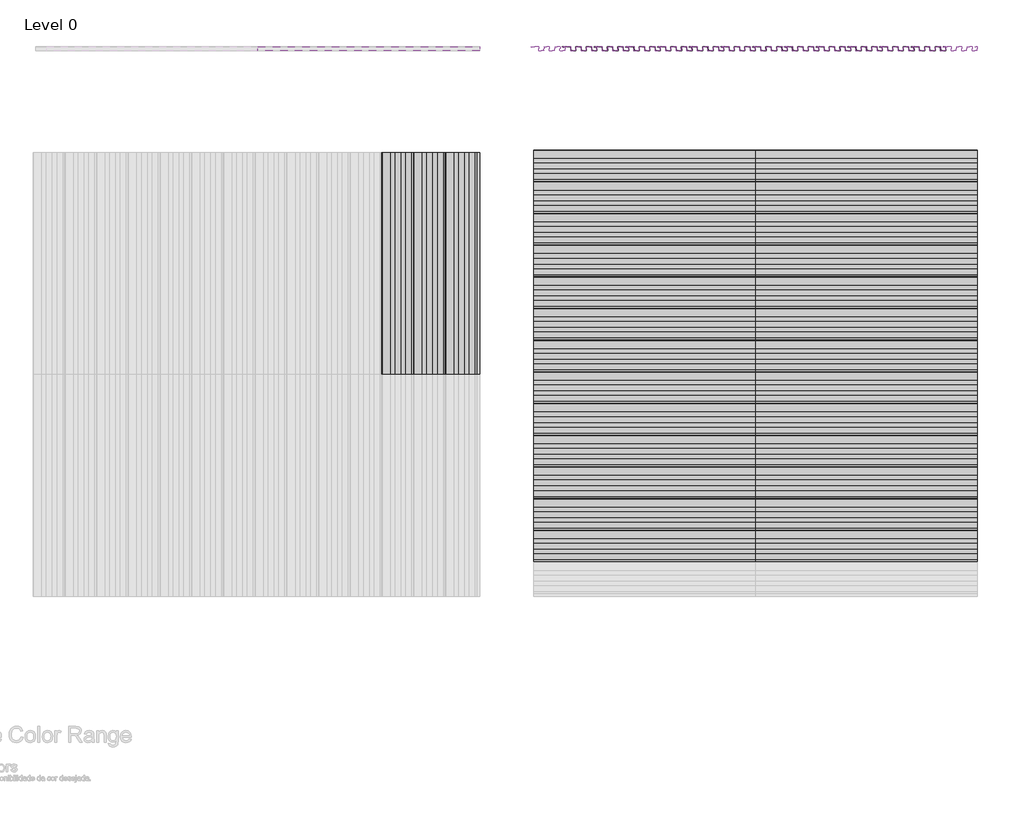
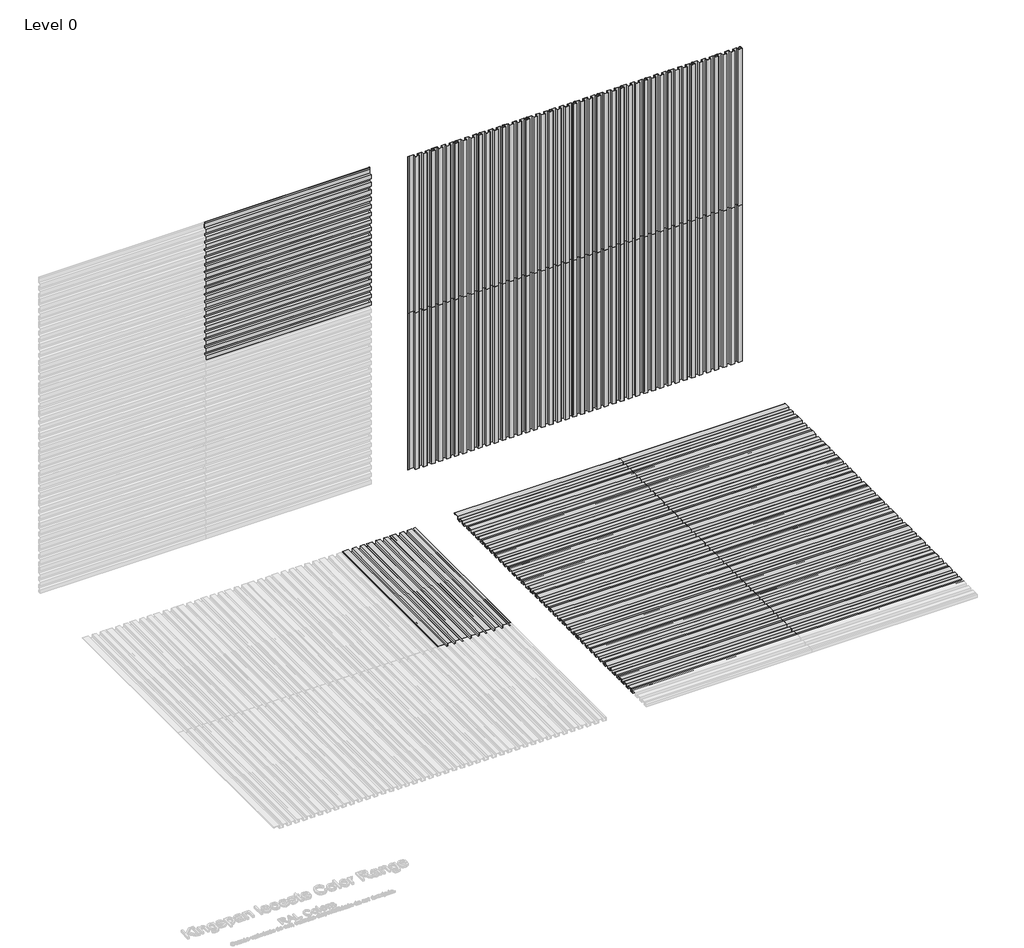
# One storey, part 2 of 2: 63 proxies.
"""IFC4 building model written with IfcOpenShell, lengths in millimetres."""

from ifc_helpers import new_model, si_unit, origin, place, context, project, spatial, transform, mapped, element, save
from components import mx1_0_standard_panel_ns_afae810e, mx1_0_standard_panel_ns_dc5b759f

model = new_model("IFC4")

# Units and contexts
model_context = context("Model", 3, world=origin())
ifc_project = project(units=[si_unit("LENGTHUNIT", "METRE", prefix="MILLI")], contexts=[model_context])

# Site, building, storey
site = spatial("IfcSite", under=ifc_project)
building = spatial("IfcBuilding", under=site)
storey = spatial("IfcBuildingStorey", under=building, Name="Level 0", Elevation=0.0)

# Proxies
placement = place(None, origin())
mx1_0_standard_panel_ns_shape = mx1_0_standard_panel_ns_afae810e(model_context)
element("IfcBuildingElementProxy", 1, Name="MX1.0 : Standard Panel_NS", ObjectType="MX1.0 : Standard Panel_NS", at=placement, inside=storey, context=model_context, shape_type="MappedRepresentation", body=[
    mapped(mx1_0_standard_panel_ns_shape, transform((3089.7088665, 5063.0274074, 0.0), x_axis=(0.0, 0.0, 1.0), y_axis=(-1.0, 0.0, 0.0), z_axis=(0.0, -1.0, 0.0))),
])
element("IfcBuildingElementProxy", 2, Name="MX1.0 : Standard Panel_NS", ObjectType="MX1.0 : Standard Panel_NS", at=placement, inside=storey, context=model_context, shape_type="MappedRepresentation", body=[
    mapped(mx1_0_standard_panel_ns_shape, transform((3089.7088665, 5063.0274074, 2100.0), x_axis=(0.0, 0.0, 1.0), y_axis=(-1.0, 0.0, 0.0), z_axis=(0.0, -1.0, 0.0))),
])
element("IfcBuildingElementProxy", 3, Name="MX1.0 : Standard Panel_NS", ObjectType="MX1.0 : Standard Panel_NS", at=placement, inside=storey, context=model_context, shape_type="MappedRepresentation", body=[
    mapped(mx1_0_standard_panel_ns_shape, transform((-1317.7637295, 5063.0274074, 2400.0), x_axis=(1.0, 0.0, 0.0), y_axis=(0.0, 0.0, 1.0), z_axis=(0.0, -1.0, 0.0))),
])
element("IfcBuildingElementProxy", 4, Name="MX1.0 : Standard Panel_NS", ObjectType="MX1.0 : Standard Panel_NS", at=placement, inside=storey, context=model_context, shape_type="MappedRepresentation", body=[
    mapped(mx1_0_standard_panel_ns_shape, transform((5489.7088666, 5063.0274074, 0.0), x_axis=(0.0, 0.0, 1.0), y_axis=(-1.0, 0.0, 0.0), z_axis=(0.0, -1.0, 0.0))),
])
element("IfcBuildingElementProxy", 5, Name="MX1.0 : Standard Panel_NS", ObjectType="MX1.0 : Standard Panel_NS", at=placement, inside=storey, context=model_context, shape_type="MappedRepresentation", body=[
    mapped(mx1_0_standard_panel_ns_shape, transform((5489.7088666, 5063.0274074, 2100.0), x_axis=(0.0, 0.0, 1.0), y_axis=(-1.0, 0.0, 0.0), z_axis=(0.0, -1.0, 0.0))),
])
mx1_0_standard_panel_ns_2_shape = mx1_0_standard_panel_ns_dc5b759f(model_context)
element("IfcBuildingElementProxy", 6, Name="MX1.0 : Standard Panel_NS", ObjectType="MX1.0 : Standard Panel_NS", at=placement, inside=storey, context=model_context, shape_type="MappedRepresentation", body=[
    mapped(mx1_0_standard_panel_ns_2_shape, transform((1289.7088668, 2258.3113453, 0.0), x_axis=(1.0, 0.0, 0.0), y_axis=(0.0, 1.0, 0.0), z_axis=(0.0, 0.0, 1.0))),
])
element("IfcBuildingElementProxy", 7, Name="MX1.0 : Standard Panel_NS", ObjectType="MX1.0 : Standard Panel_NS", at=placement, inside=storey, context=model_context, shape_type="MappedRepresentation", body=[
    mapped(mx1_0_standard_panel_ns_2_shape, transform((782.2362705, 1958.3113453, 0.0), x_axis=(0.0, 1.0, 0.0), y_axis=(-1.0, 0.0, 0.0), z_axis=(0.0, 0.0, 1.0))),
])
element("IfcBuildingElementProxy", 8, Name="MX1.0 : Standard Panel_NS", ObjectType="MX1.0 : Standard Panel_NS", at=placement, inside=storey, context=model_context, shape_type="MappedRepresentation", body=[
    mapped(mx1_0_standard_panel_ns_2_shape, transform((3389.7088668, 2258.3113453, 0.0), x_axis=(1.0, 0.0, 0.0), y_axis=(0.0, 1.0, 0.0), z_axis=(0.0, 0.0, 1.0))),
])
element("IfcBuildingElementProxy", 9, Name="MX1.0 : Standard Panel_NS", ObjectType="MX1.0 : Standard Panel_NS", at=placement, inside=storey, context=model_context, shape_type="MappedRepresentation", body=[
    mapped(mx1_0_standard_panel_ns_shape, transform((1589.7088666, 5063.0274074, 0.0), x_axis=(0.0, 0.0, 1.0), y_axis=(-1.0, 0.0, 0.0), z_axis=(0.0, -1.0, 0.0))),
])
element("IfcBuildingElementProxy", 10, Name="MX1.0 : Standard Panel_NS", ObjectType="MX1.0 : Standard Panel_NS", at=placement, inside=storey, context=model_context, shape_type="MappedRepresentation", body=[
    mapped(mx1_0_standard_panel_ns_shape, transform((1589.7088666, 5063.0274074, 2100.0), x_axis=(0.0, 0.0, 1.0), y_axis=(-1.0, 0.0, 0.0), z_axis=(0.0, -1.0, 0.0))),
])
element("IfcBuildingElementProxy", 11, Name="MX1.0 : Standard Panel_NS", ObjectType="MX1.0 : Standard Panel_NS", at=placement, inside=storey, context=model_context, shape_type="MappedRepresentation", body=[
    mapped(mx1_0_standard_panel_ns_shape, transform((-1317.7637295, 5063.0274074, 3900.0), x_axis=(1.0, 0.0, 0.0), y_axis=(0.0, 0.0, 1.0), z_axis=(0.0, -1.0, 0.0))),
])
element("IfcBuildingElementProxy", 12, Name="MX1.0 : Standard Panel_NS", ObjectType="MX1.0 : Standard Panel_NS", at=placement, inside=storey, context=model_context, shape_type="MappedRepresentation", body=[
    mapped(mx1_0_standard_panel_ns_shape, transform((3989.7088665, 5063.0274074, 0.0), x_axis=(0.0, 0.0, 1.0), y_axis=(-1.0, 0.0, 0.0), z_axis=(0.0, -1.0, 0.0))),
])
element("IfcBuildingElementProxy", 13, Name="MX1.0 : Standard Panel_NS", ObjectType="MX1.0 : Standard Panel_NS", at=placement, inside=storey, context=model_context, shape_type="MappedRepresentation", body=[
    mapped(mx1_0_standard_panel_ns_shape, transform((3989.7088665, 5063.0274074, 2100.0), x_axis=(0.0, 0.0, 1.0), y_axis=(-1.0, 0.0, 0.0), z_axis=(0.0, -1.0, 0.0))),
])
element("IfcBuildingElementProxy", 14, Name="MX1.0 : Standard Panel_NS", ObjectType="MX1.0 : Standard Panel_NS", at=placement, inside=storey, context=model_context, shape_type="MappedRepresentation", body=[
    mapped(mx1_0_standard_panel_ns_shape, transform((2789.7088665, 5063.0274074, 0.0), x_axis=(0.0, 0.0, 1.0), y_axis=(-1.0, 0.0, 0.0), z_axis=(0.0, -1.0, 0.0))),
])
element("IfcBuildingElementProxy", 15, Name="MX1.0 : Standard Panel_NS", ObjectType="MX1.0 : Standard Panel_NS", at=placement, inside=storey, context=model_context, shape_type="MappedRepresentation", body=[
    mapped(mx1_0_standard_panel_ns_shape, transform((2789.7088665, 5063.0274074, 2100.0), x_axis=(0.0, 0.0, 1.0), y_axis=(-1.0, 0.0, 0.0), z_axis=(0.0, -1.0, 0.0))),
])
element("IfcBuildingElementProxy", 16, Name="MX1.0 : Standard Panel_NS", ObjectType="MX1.0 : Standard Panel_NS", at=placement, inside=storey, context=model_context, shape_type="MappedRepresentation", body=[
    mapped(mx1_0_standard_panel_ns_shape, transform((-1317.7637295, 5063.0274074, 2700.0), x_axis=(1.0, 0.0, 0.0), y_axis=(0.0, 0.0, 1.0), z_axis=(0.0, -1.0, 0.0))),
])
element("IfcBuildingElementProxy", 17, Name="MX1.0 : Standard Panel_NS", ObjectType="MX1.0 : Standard Panel_NS", at=placement, inside=storey, context=model_context, shape_type="MappedRepresentation", body=[
    mapped(mx1_0_standard_panel_ns_shape, transform((5189.7088665, 5063.0274074, 0.0), x_axis=(0.0, 0.0, 1.0), y_axis=(-1.0, 0.0, 0.0), z_axis=(0.0, -1.0, 0.0))),
])
element("IfcBuildingElementProxy", 18, Name="MX1.0 : Standard Panel_NS", ObjectType="MX1.0 : Standard Panel_NS", at=placement, inside=storey, context=model_context, shape_type="MappedRepresentation", body=[
    mapped(mx1_0_standard_panel_ns_shape, transform((5189.7088665, 5063.0274074, 2100.0), x_axis=(0.0, 0.0, 1.0), y_axis=(-1.0, 0.0, 0.0), z_axis=(0.0, -1.0, 0.0))),
])
element("IfcBuildingElementProxy", 19, Name="MX1.0 : Standard Panel_NS", ObjectType="MX1.0 : Standard Panel_NS", at=placement, inside=storey, context=model_context, shape_type="MappedRepresentation", body=[
    mapped(mx1_0_standard_panel_ns_shape, transform((2489.7088665, 5063.0274074, 0.0), x_axis=(0.0, 0.0, 1.0), y_axis=(-1.0, 0.0, 0.0), z_axis=(0.0, -1.0, 0.0))),
])
element("IfcBuildingElementProxy", 20, Name="MX1.0 : Standard Panel_NS", ObjectType="MX1.0 : Standard Panel_NS", at=placement, inside=storey, context=model_context, shape_type="MappedRepresentation", body=[
    mapped(mx1_0_standard_panel_ns_shape, transform((2489.7088665, 5063.0274074, 2100.0), x_axis=(0.0, 0.0, 1.0), y_axis=(-1.0, 0.0, 0.0), z_axis=(0.0, -1.0, 0.0))),
])
element("IfcBuildingElementProxy", 21, Name="MX1.0 : Standard Panel_NS", ObjectType="MX1.0 : Standard Panel_NS", at=placement, inside=storey, context=model_context, shape_type="MappedRepresentation", body=[
    mapped(mx1_0_standard_panel_ns_shape, transform((-1317.7637295, 5063.0274074, 3000.0), x_axis=(1.0, 0.0, 0.0), y_axis=(0.0, 0.0, 1.0), z_axis=(0.0, -1.0, 0.0))),
])
element("IfcBuildingElementProxy", 22, Name="MX1.0 : Standard Panel_NS", ObjectType="MX1.0 : Standard Panel_NS", at=placement, inside=storey, context=model_context, shape_type="MappedRepresentation", body=[
    mapped(mx1_0_standard_panel_ns_shape, transform((4889.7088665, 5063.0274074, 0.0), x_axis=(0.0, 0.0, 1.0), y_axis=(-1.0, 0.0, 0.0), z_axis=(0.0, -1.0, 0.0))),
])
element("IfcBuildingElementProxy", 23, Name="MX1.0 : Standard Panel_NS", ObjectType="MX1.0 : Standard Panel_NS", at=placement, inside=storey, context=model_context, shape_type="MappedRepresentation", body=[
    mapped(mx1_0_standard_panel_ns_shape, transform((4889.7088665, 5063.0274074, 2100.0), x_axis=(0.0, 0.0, 1.0), y_axis=(-1.0, 0.0, 0.0), z_axis=(0.0, -1.0, 0.0))),
])
element("IfcBuildingElementProxy", 24, Name="MX1.0 : Standard Panel_NS", ObjectType="MX1.0 : Standard Panel_NS", at=placement, inside=storey, context=model_context, shape_type="MappedRepresentation", body=[
    mapped(mx1_0_standard_panel_ns_shape, transform((2189.7088665, 5063.0274074, 0.0), x_axis=(0.0, 0.0, 1.0), y_axis=(-1.0, 0.0, 0.0), z_axis=(0.0, -1.0, 0.0))),
])
element("IfcBuildingElementProxy", 25, Name="MX1.0 : Standard Panel_NS", ObjectType="MX1.0 : Standard Panel_NS", at=placement, inside=storey, context=model_context, shape_type="MappedRepresentation", body=[
    mapped(mx1_0_standard_panel_ns_shape, transform((2189.7088665, 5063.0274074, 2100.0), x_axis=(0.0, 0.0, 1.0), y_axis=(-1.0, 0.0, 0.0), z_axis=(0.0, -1.0, 0.0))),
])
element("IfcBuildingElementProxy", 26, Name="MX1.0 : Standard Panel_NS", ObjectType="MX1.0 : Standard Panel_NS", at=placement, inside=storey, context=model_context, shape_type="MappedRepresentation", body=[
    mapped(mx1_0_standard_panel_ns_shape, transform((-1317.7637295, 5063.0274074, 3300.0), x_axis=(1.0, 0.0, 0.0), y_axis=(0.0, 0.0, 1.0), z_axis=(0.0, -1.0, 0.0))),
])
element("IfcBuildingElementProxy", 27, Name="MX1.0 : Standard Panel_NS", ObjectType="MX1.0 : Standard Panel_NS", at=placement, inside=storey, context=model_context, shape_type="MappedRepresentation", body=[
    mapped(mx1_0_standard_panel_ns_shape, transform((4589.7088665, 5063.0274074, 0.0), x_axis=(0.0, 0.0, 1.0), y_axis=(-1.0, 0.0, 0.0), z_axis=(0.0, -1.0, 0.0))),
])
element("IfcBuildingElementProxy", 28, Name="MX1.0 : Standard Panel_NS", ObjectType="MX1.0 : Standard Panel_NS", at=placement, inside=storey, context=model_context, shape_type="MappedRepresentation", body=[
    mapped(mx1_0_standard_panel_ns_shape, transform((4589.7088665, 5063.0274074, 2100.0), x_axis=(0.0, 0.0, 1.0), y_axis=(-1.0, 0.0, 0.0), z_axis=(0.0, -1.0, 0.0))),
])
element("IfcBuildingElementProxy", 29, Name="MX1.0 : Standard Panel_NS", ObjectType="MX1.0 : Standard Panel_NS", at=placement, inside=storey, context=model_context, shape_type="MappedRepresentation", body=[
    mapped(mx1_0_standard_panel_ns_shape, transform((1889.7088665, 5063.0274074, 0.0), x_axis=(0.0, 0.0, 1.0), y_axis=(-1.0, 0.0, 0.0), z_axis=(0.0, -1.0, 0.0))),
])
element("IfcBuildingElementProxy", 30, Name="MX1.0 : Standard Panel_NS", ObjectType="MX1.0 : Standard Panel_NS", at=placement, inside=storey, context=model_context, shape_type="MappedRepresentation", body=[
    mapped(mx1_0_standard_panel_ns_shape, transform((1889.7088665, 5063.0274074, 2100.0), x_axis=(0.0, 0.0, 1.0), y_axis=(-1.0, 0.0, 0.0), z_axis=(0.0, -1.0, 0.0))),
])
element("IfcBuildingElementProxy", 31, Name="MX1.0 : Standard Panel_NS", ObjectType="MX1.0 : Standard Panel_NS", at=placement, inside=storey, context=model_context, shape_type="MappedRepresentation", body=[
    mapped(mx1_0_standard_panel_ns_shape, transform((-1317.7637295, 5063.0274074, 3600.0), x_axis=(1.0, 0.0, 0.0), y_axis=(0.0, 0.0, 1.0), z_axis=(0.0, -1.0, 0.0))),
])
element("IfcBuildingElementProxy", 32, Name="MX1.0 : Standard Panel_NS", ObjectType="MX1.0 : Standard Panel_NS", at=placement, inside=storey, context=model_context, shape_type="MappedRepresentation", body=[
    mapped(mx1_0_standard_panel_ns_shape, transform((4289.7088665, 5063.0274074, 0.0), x_axis=(0.0, 0.0, 1.0), y_axis=(-1.0, 0.0, 0.0), z_axis=(0.0, -1.0, 0.0))),
])
element("IfcBuildingElementProxy", 33, Name="MX1.0 : Standard Panel_NS", ObjectType="MX1.0 : Standard Panel_NS", at=placement, inside=storey, context=model_context, shape_type="MappedRepresentation", body=[
    mapped(mx1_0_standard_panel_ns_shape, transform((4289.7088665, 5063.0274074, 2100.0), x_axis=(0.0, 0.0, 1.0), y_axis=(-1.0, 0.0, 0.0), z_axis=(0.0, -1.0, 0.0))),
])
element("IfcBuildingElementProxy", 34, Name="MX1.0 : Standard Panel_NS", ObjectType="MX1.0 : Standard Panel_NS", at=placement, inside=storey, context=model_context, shape_type="MappedRepresentation", body=[
    mapped(mx1_0_standard_panel_ns_shape, transform((3689.7088665, 5063.0274074, 0.0), x_axis=(0.0, 0.0, 1.0), y_axis=(-1.0, 0.0, 0.0), z_axis=(0.0, -1.0, 0.0))),
])
element("IfcBuildingElementProxy", 35, Name="MX1.0 : Standard Panel_NS", ObjectType="MX1.0 : Standard Panel_NS", at=placement, inside=storey, context=model_context, shape_type="MappedRepresentation", body=[
    mapped(mx1_0_standard_panel_ns_shape, transform((3689.7088665, 5063.0274074, 2100.0), x_axis=(0.0, 0.0, 1.0), y_axis=(-1.0, 0.0, 0.0), z_axis=(0.0, -1.0, 0.0))),
])
element("IfcBuildingElementProxy", 36, Name="MX1.0 : Standard Panel_NS", ObjectType="MX1.0 : Standard Panel_NS", at=placement, inside=storey, context=model_context, shape_type="MappedRepresentation", body=[
    mapped(mx1_0_standard_panel_ns_shape, transform((3389.7088665, 5063.0274074, 0.0), x_axis=(0.0, 0.0, 1.0), y_axis=(-1.0, 0.0, 0.0), z_axis=(0.0, -1.0, 0.0))),
])
element("IfcBuildingElementProxy", 37, Name="MX1.0 : Standard Panel_NS", ObjectType="MX1.0 : Standard Panel_NS", at=placement, inside=storey, context=model_context, shape_type="MappedRepresentation", body=[
    mapped(mx1_0_standard_panel_ns_shape, transform((3389.7088665, 5063.0274074, 2100.0), x_axis=(0.0, 0.0, 1.0), y_axis=(-1.0, 0.0, 0.0), z_axis=(0.0, -1.0, 0.0))),
])
element("IfcBuildingElementProxy", 38, Name="MX1.0 : Standard Panel_NS", ObjectType="MX1.0 : Standard Panel_NS", at=placement, inside=storey, context=model_context, shape_type="MappedRepresentation", body=[
    mapped(mx1_0_standard_panel_ns_2_shape, transform((1289.7088668, 1358.3113453, 0.0), x_axis=(1.0, 0.0, 0.0), y_axis=(0.0, 1.0, 0.0), z_axis=(0.0, 0.0, 1.0))),
])
element("IfcBuildingElementProxy", 39, Name="MX1.0 : Standard Panel_NS", ObjectType="MX1.0 : Standard Panel_NS", at=placement, inside=storey, context=model_context, shape_type="MappedRepresentation", body=[
    mapped(mx1_0_standard_panel_ns_2_shape, transform((1289.7088668, 3758.3113453, 0.0), x_axis=(1.0, 0.0, 0.0), y_axis=(0.0, 1.0, 0.0), z_axis=(0.0, 0.0, 1.0))),
])
element("IfcBuildingElementProxy", 40, Name="MX1.0 : Standard Panel_NS", ObjectType="MX1.0 : Standard Panel_NS", at=placement, inside=storey, context=model_context, shape_type="MappedRepresentation", body=[
    mapped(mx1_0_standard_panel_ns_2_shape, transform((3389.7088668, 1358.3113453, 0.0), x_axis=(1.0, 0.0, 0.0), y_axis=(0.0, 1.0, 0.0), z_axis=(0.0, 0.0, 1.0))),
])
element("IfcBuildingElementProxy", 41, Name="MX1.0 : Standard Panel_NS", ObjectType="MX1.0 : Standard Panel_NS", at=placement, inside=storey, context=model_context, shape_type="MappedRepresentation", body=[
    mapped(mx1_0_standard_panel_ns_2_shape, transform((3389.7088668, 3758.3113453, 0.0), x_axis=(1.0, 0.0, 0.0), y_axis=(0.0, 1.0, 0.0), z_axis=(0.0, 0.0, 1.0))),
])
element("IfcBuildingElementProxy", 42, Name="MX1.0 : Standard Panel_NS", ObjectType="MX1.0 : Standard Panel_NS", at=placement, inside=storey, context=model_context, shape_type="MappedRepresentation", body=[
    mapped(mx1_0_standard_panel_ns_2_shape, transform((1289.7088668, 158.3113453, 0.0), x_axis=(1.0, 0.0, 0.0), y_axis=(0.0, 1.0, 0.0), z_axis=(0.0, 0.0, 1.0))),
])
element("IfcBuildingElementProxy", 43, Name="MX1.0 : Standard Panel_NS", ObjectType="MX1.0 : Standard Panel_NS", at=placement, inside=storey, context=model_context, shape_type="MappedRepresentation", body=[
    mapped(mx1_0_standard_panel_ns_2_shape, transform((1289.7088668, 2558.3113453, 0.0), x_axis=(1.0, 0.0, 0.0), y_axis=(0.0, 1.0, 0.0), z_axis=(0.0, 0.0, 1.0))),
])
element("IfcBuildingElementProxy", 44, Name="MX1.0 : Standard Panel_NS", ObjectType="MX1.0 : Standard Panel_NS", at=placement, inside=storey, context=model_context, shape_type="MappedRepresentation", body=[
    mapped(mx1_0_standard_panel_ns_2_shape, transform((482.2362703, 1958.3113453, 0.0), x_axis=(0.0, 1.0, 0.0), y_axis=(-1.0, 0.0, 0.0), z_axis=(0.0, 0.0, 1.0))),
])
element("IfcBuildingElementProxy", 45, Name="MX1.0 : Standard Panel_NS", ObjectType="MX1.0 : Standard Panel_NS", at=placement, inside=storey, context=model_context, shape_type="MappedRepresentation", body=[
    mapped(mx1_0_standard_panel_ns_2_shape, transform((3389.7088668, 158.3113453, 0.0), x_axis=(1.0, 0.0, 0.0), y_axis=(0.0, 1.0, 0.0), z_axis=(0.0, 0.0, 1.0))),
])
element("IfcBuildingElementProxy", 46, Name="MX1.0 : Standard Panel_NS", ObjectType="MX1.0 : Standard Panel_NS", at=placement, inside=storey, context=model_context, shape_type="MappedRepresentation", body=[
    mapped(mx1_0_standard_panel_ns_2_shape, transform((3389.7088668, 2558.3113453, 0.0), x_axis=(1.0, 0.0, 0.0), y_axis=(0.0, 1.0, 0.0), z_axis=(0.0, 0.0, 1.0))),
])
element("IfcBuildingElementProxy", 47, Name="MX1.0 : Standard Panel_NS", ObjectType="MX1.0 : Standard Panel_NS", at=placement, inside=storey, context=model_context, shape_type="MappedRepresentation", body=[
    mapped(mx1_0_standard_panel_ns_2_shape, transform((1289.7088668, 458.3113453, 0.0), x_axis=(1.0, 0.0, 0.0), y_axis=(0.0, 1.0, 0.0), z_axis=(0.0, 0.0, 1.0))),
])
element("IfcBuildingElementProxy", 48, Name="MX1.0 : Standard Panel_NS", ObjectType="MX1.0 : Standard Panel_NS", at=placement, inside=storey, context=model_context, shape_type="MappedRepresentation", body=[
    mapped(mx1_0_standard_panel_ns_2_shape, transform((1289.7088668, 2858.3113453, 0.0), x_axis=(1.0, 0.0, 0.0), y_axis=(0.0, 1.0, 0.0), z_axis=(0.0, 0.0, 1.0))),
])
element("IfcBuildingElementProxy", 49, Name="MX1.0 : Standard Panel_NS", ObjectType="MX1.0 : Standard Panel_NS", at=placement, inside=storey, context=model_context, shape_type="MappedRepresentation", body=[
    mapped(mx1_0_standard_panel_ns_2_shape, transform((182.2362703, 1958.3113453, 0.0), x_axis=(0.0, 1.0, 0.0), y_axis=(-1.0, 0.0, 0.0), z_axis=(0.0, 0.0, 1.0))),
])
element("IfcBuildingElementProxy", 50, Name="MX1.0 : Standard Panel_NS", ObjectType="MX1.0 : Standard Panel_NS", at=placement, inside=storey, context=model_context, shape_type="MappedRepresentation", body=[
    mapped(mx1_0_standard_panel_ns_2_shape, transform((3389.7088668, 458.3113453, 0.0), x_axis=(1.0, 0.0, 0.0), y_axis=(0.0, 1.0, 0.0), z_axis=(0.0, 0.0, 1.0))),
])
element("IfcBuildingElementProxy", 51, Name="MX1.0 : Standard Panel_NS", ObjectType="MX1.0 : Standard Panel_NS", at=placement, inside=storey, context=model_context, shape_type="MappedRepresentation", body=[
    mapped(mx1_0_standard_panel_ns_2_shape, transform((3389.7088668, 2858.3113453, 0.0), x_axis=(1.0, 0.0, 0.0), y_axis=(0.0, 1.0, 0.0), z_axis=(0.0, 0.0, 1.0))),
])
element("IfcBuildingElementProxy", 52, Name="MX1.0 : Standard Panel_NS", ObjectType="MX1.0 : Standard Panel_NS", at=placement, inside=storey, context=model_context, shape_type="MappedRepresentation", body=[
    mapped(mx1_0_standard_panel_ns_2_shape, transform((1289.7088668, 758.3113453, 0.0), x_axis=(1.0, 0.0, 0.0), y_axis=(0.0, 1.0, 0.0), z_axis=(0.0, 0.0, 1.0))),
])
element("IfcBuildingElementProxy", 53, Name="MX1.0 : Standard Panel_NS", ObjectType="MX1.0 : Standard Panel_NS", at=placement, inside=storey, context=model_context, shape_type="MappedRepresentation", body=[
    mapped(mx1_0_standard_panel_ns_2_shape, transform((1289.7088668, 3158.3113453, 0.0), x_axis=(1.0, 0.0, 0.0), y_axis=(0.0, 1.0, 0.0), z_axis=(0.0, 0.0, 1.0))),
])
element("IfcBuildingElementProxy", 54, Name="MX1.0 : Standard Panel_NS", ObjectType="MX1.0 : Standard Panel_NS", at=placement, inside=storey, context=model_context, shape_type="MappedRepresentation", body=[
    mapped(mx1_0_standard_panel_ns_2_shape, transform((3389.7088668, 758.3113453, 0.0), x_axis=(1.0, 0.0, 0.0), y_axis=(0.0, 1.0, 0.0), z_axis=(0.0, 0.0, 1.0))),
])
element("IfcBuildingElementProxy", 55, Name="MX1.0 : Standard Panel_NS", ObjectType="MX1.0 : Standard Panel_NS", at=placement, inside=storey, context=model_context, shape_type="MappedRepresentation", body=[
    mapped(mx1_0_standard_panel_ns_2_shape, transform((3389.7088668, 3158.3113453, 0.0), x_axis=(1.0, 0.0, 0.0), y_axis=(0.0, 1.0, 0.0), z_axis=(0.0, 0.0, 1.0))),
])
element("IfcBuildingElementProxy", 56, Name="MX1.0 : Standard Panel_NS", ObjectType="MX1.0 : Standard Panel_NS", at=placement, inside=storey, context=model_context, shape_type="MappedRepresentation", body=[
    mapped(mx1_0_standard_panel_ns_2_shape, transform((1289.7088668, 1058.3113453, 0.0), x_axis=(1.0, 0.0, 0.0), y_axis=(0.0, 1.0, 0.0), z_axis=(0.0, 0.0, 1.0))),
])
element("IfcBuildingElementProxy", 57, Name="MX1.0 : Standard Panel_NS", ObjectType="MX1.0 : Standard Panel_NS", at=placement, inside=storey, context=model_context, shape_type="MappedRepresentation", body=[
    mapped(mx1_0_standard_panel_ns_2_shape, transform((1289.7088668, 3458.3113453, 0.0), x_axis=(1.0, 0.0, 0.0), y_axis=(0.0, 1.0, 0.0), z_axis=(0.0, 0.0, 1.0))),
])
element("IfcBuildingElementProxy", 58, Name="MX1.0 : Standard Panel_NS", ObjectType="MX1.0 : Standard Panel_NS", at=placement, inside=storey, context=model_context, shape_type="MappedRepresentation", body=[
    mapped(mx1_0_standard_panel_ns_2_shape, transform((3389.7088668, 1058.3113453, 0.0), x_axis=(1.0, 0.0, 0.0), y_axis=(0.0, 1.0, 0.0), z_axis=(0.0, 0.0, 1.0))),
])
element("IfcBuildingElementProxy", 59, Name="MX1.0 : Standard Panel_NS", ObjectType="MX1.0 : Standard Panel_NS", at=placement, inside=storey, context=model_context, shape_type="MappedRepresentation", body=[
    mapped(mx1_0_standard_panel_ns_2_shape, transform((3389.7088668, 3458.3113453, 0.0), x_axis=(1.0, 0.0, 0.0), y_axis=(0.0, 1.0, 0.0), z_axis=(0.0, 0.0, 1.0))),
])
element("IfcBuildingElementProxy", 60, Name="MX1.0 : Standard Panel_NS", ObjectType="MX1.0 : Standard Panel_NS", at=placement, inside=storey, context=model_context, shape_type="MappedRepresentation", body=[
    mapped(mx1_0_standard_panel_ns_2_shape, transform((1289.7088668, 1658.3113453, 0.0), x_axis=(1.0, 0.0, 0.0), y_axis=(0.0, 1.0, 0.0), z_axis=(0.0, 0.0, 1.0))),
])
element("IfcBuildingElementProxy", 61, Name="MX1.0 : Standard Panel_NS", ObjectType="MX1.0 : Standard Panel_NS", at=placement, inside=storey, context=model_context, shape_type="MappedRepresentation", body=[
    mapped(mx1_0_standard_panel_ns_2_shape, transform((3389.7088668, 1658.3113453, 0.0), x_axis=(1.0, 0.0, 0.0), y_axis=(0.0, 1.0, 0.0), z_axis=(0.0, 0.0, 1.0))),
])
element("IfcBuildingElementProxy", 62, Name="MX1.0 : Standard Panel_NS", ObjectType="MX1.0 : Standard Panel_NS", at=placement, inside=storey, context=model_context, shape_type="MappedRepresentation", body=[
    mapped(mx1_0_standard_panel_ns_2_shape, transform((1289.7088668, 1958.3113453, 0.0), x_axis=(1.0, 0.0, 0.0), y_axis=(0.0, 1.0, 0.0), z_axis=(0.0, 0.0, 1.0))),
])
element("IfcBuildingElementProxy", 63, Name="MX1.0 : Standard Panel_NS", ObjectType="MX1.0 : Standard Panel_NS", at=placement, inside=storey, context=model_context, shape_type="MappedRepresentation", body=[
    mapped(mx1_0_standard_panel_ns_2_shape, transform((3389.7088668, 1958.3113453, 0.0), x_axis=(1.0, 0.0, 0.0), y_axis=(0.0, 1.0, 0.0), z_axis=(0.0, 0.0, 1.0))),
])

save(model, "model.ifc")
